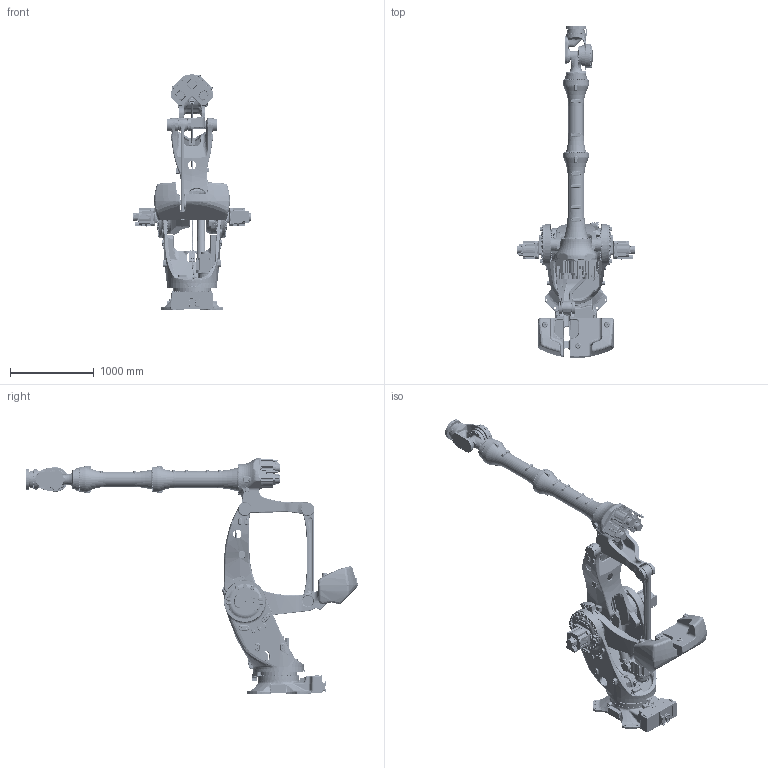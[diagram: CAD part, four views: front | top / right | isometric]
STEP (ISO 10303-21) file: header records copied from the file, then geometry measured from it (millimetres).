
FILE_DESCRIPTION(('CATIA V5 STEP Exchange','CAx-IF Rec.Pracs.--- Model Styling and Organization---1.5--- 2016-08-15','CAx-IF Rec.Pracs.---Supplemental Geometry---1.0---2011-11-01','CAx-IF Rec.Pracs.--- Composite Materials ---3.4---2017-06-13','CAx-IF Rec.Pracs.---Tessellated 3D Geometry---1.0---2015-12-17'),'2;1');
FILE_NAME('D:\モデリング\☆STEP\MXP\MXP\MXP410X\RARAS_220909\軽量化_STEP\Part\MXP410X-A001.stp','2022-09-15T08:47:27+00:00',('none'),('none'),'CATIA Version 5-6 Release 2020 SP4 HF11','CATIA V5 STEP AP242 v2','none');
FILE_SCHEMA(('AP242_MANAGED_MODEL_BASED_3D_ENGINEERING_MIM_LF {1 0 10303 442 1 1 4}'));
Products named in the file (12): MXP410X-A001; MXP410X-A001_BASE; MXP410X-A001_J1; MXP410X-A001_J2; MXP410X-A001_J3; MXP410X-A001_J4; MXP410X-A001_J5; MXP410X-A001_J6; MXP410X-A001_CLAMP; MXP410X-A001_SUBARM; MXP410X-A001_BALANCER1; MXP410X-A001_BALANCER2
Assembly tree (11 placements, depth 2):
  MXP410X-A001
    MXP410X-A001_BASE
    MXP410X-A001_J1
    MXP410X-A001_J2
    MXP410X-A001_J3
    MXP410X-A001_J4
    MXP410X-A001_J5
    MXP410X-A001_J6
    MXP410X-A001_CLAMP
    MXP410X-A001_SUBARM
    MXP410X-A001_BALANCER1
    MXP410X-A001_BALANCER2
Bounding box: 1396.6 x 3950.95 x 2800.98 mm (x, y, z)
Volume: 552391940 mm3; surface area: 19806768.5 mm2
Topology: 32 solids, 32 shells, 12281 faces, 29810 edges, 18357 vertices
Faces by surface type: cylinder 4553, plane 3490, bspline 2329, cone 1014, torus 729, sphere 81, extrusion 63, revolution 22
Entity records: 535456 total; most frequent: CARTESIAN_POINT 286469, ORIENTED_EDGE 58528, DIRECTION 35523, EDGE_CURVE 29264, VERTEX_POINT 18357, AXIS2_PLACEMENT_3D 18070, EDGE_LOOP 13769, ADVANCED_FACE 12281
